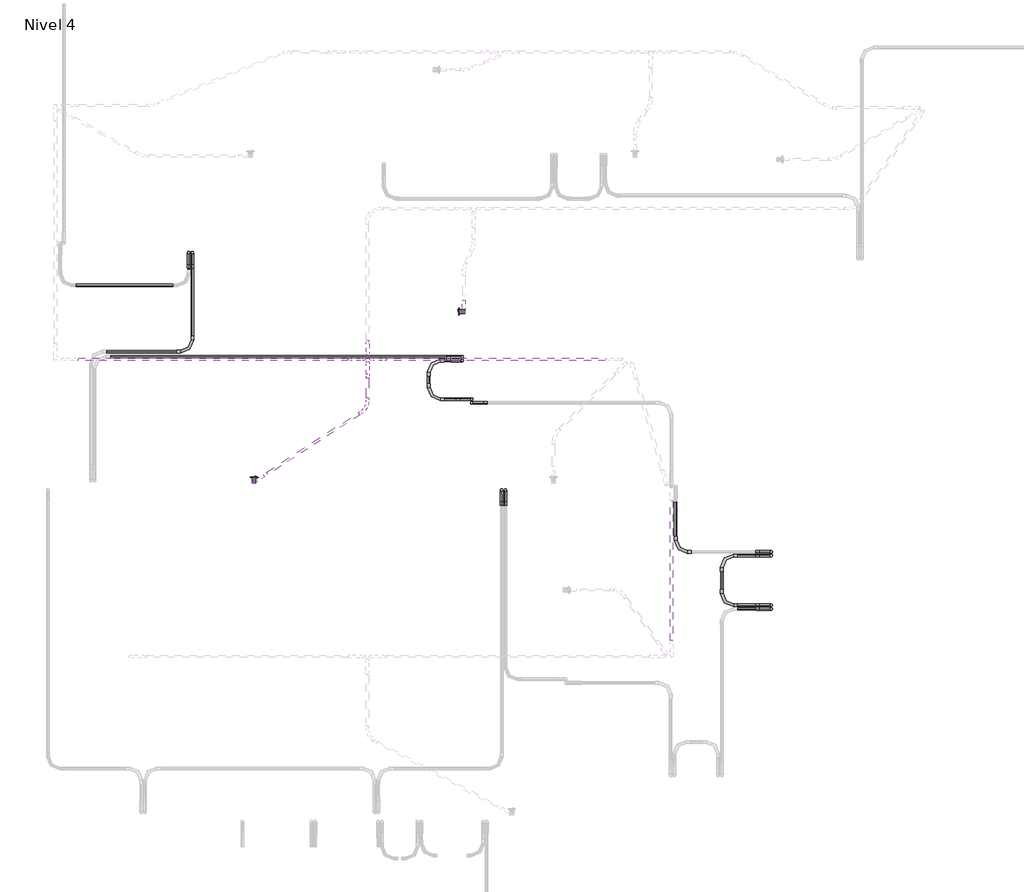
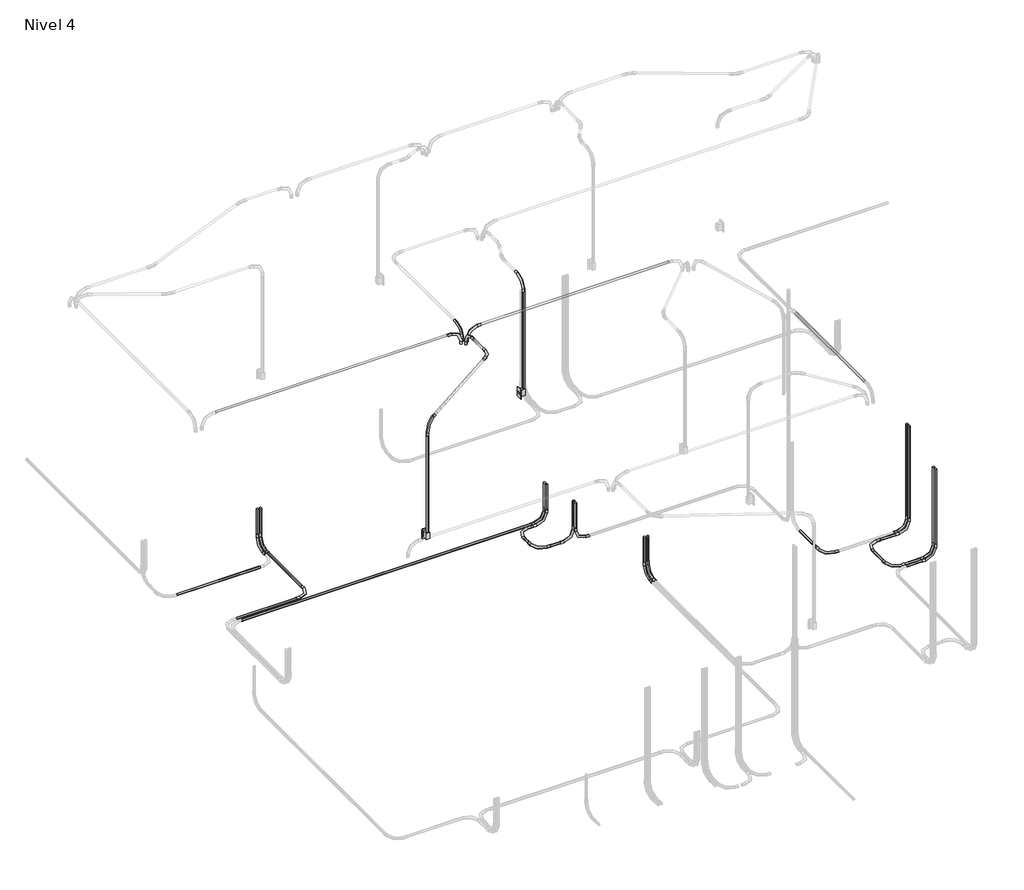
# One storey, part 7 of 9: 32 cable carrier segments, 25 cable carrier fittings, 2 switching devices.
"""IFC4 building model written with IfcOpenShell, lengths in millimetres."""

from ifc_helpers import new_model, si_unit, point, frame, frame_2d, origin, place, context, project, spatial, circle_curve, trimmed, segment, composite_curve, outline, extrude, transform, mapped, element, save
from components import m_codo_de_tubo_extremo_liso_pvc_9da73e12, m_codo_de_tubo_extremo_liso_pvc_102f0f41, m_codo_de_tubo_extremo_liso_pvc_76d9b60b, switching_device_22fed34b

model = new_model("IFC4")

# Units and contexts
model_context = context("Model", 3, world=origin())
ifc_project = project(units=[si_unit("LENGTHUNIT", "METRE", prefix="MILLI")], contexts=[model_context])

# Site, building, storey
site = spatial("IfcSite", under=ifc_project)
building = spatial("IfcBuilding", under=site)
storey = spatial("IfcBuildingStorey", under=building, Name="Nivel 4", Elevation=8100.0)

# Cable carrier fittings
placement = place(None, origin())
m_codo_de_tubo_extremo_liso_pvc_shape = m_codo_de_tubo_extremo_liso_pvc_9da73e12(model_context)
element("IfcCableCarrierFitting", 1, ObjectType="M_Codo de tubo - Extremo liso - PVC : CODO POTENCIA", at=placement, inside=storey, context=model_context, shape_type="MappedRepresentation", body=[
    mapped(m_codo_de_tubo_extremo_liso_pvc_shape, transform((693.5135129, 14563.117219, 8030.0), x_axis=(0.0, 0.0, -1.0), y_axis=(0.0, -1.0, 0.0), z_axis=(-1.0, 0.0, 0.0))),
])
element("IfcCableCarrierFitting", 2, ObjectType="M_Codo de tubo - Extremo liso - PVC : CODO POTENCIA", at=placement, inside=storey, context=model_context, shape_type="MappedRepresentation", body=[
    mapped(m_codo_de_tubo_extremo_liso_pvc_shape, transform((657.4498733, 14563.117219, 8030.0), x_axis=(0.0, 0.0, -1.0), y_axis=(0.0, -1.0, 0.0), z_axis=(-1.0, 0.0, 0.0))),
])
element("IfcCableCarrierFitting", 3, ObjectType="M_Codo de tubo - Extremo liso - PVC : CODO POTENCIA", at=placement, inside=storey, context=model_context, shape_type="MappedRepresentation", body=[
    mapped(m_codo_de_tubo_extremo_liso_pvc_shape, transform((6344.6371118, 11639.3432469, 8030.0), x_axis=(0.0, 0.0, -1.0), y_axis=(-1.0, 0.0, 0.0), z_axis=(0.0, 1.0, 0.0))),
])
element("IfcCableCarrierFitting", 4, ObjectType="M_Codo de tubo - Extremo liso - PVC : CODO POTENCIA", at=placement, inside=storey, context=model_context, shape_type="MappedRepresentation", body=[
    mapped(m_codo_de_tubo_extremo_liso_pvc_shape, transform((6344.6371118, 11603.2796073, 8030.0), x_axis=(0.0, 0.0, -1.0), y_axis=(-1.0, 0.0, 0.0), z_axis=(0.0, 1.0, 0.0))),
])
element("IfcCableCarrierFitting", 5, ObjectType="M_Codo de tubo - Extremo liso - PVC : CODO POTENCIA", at=placement, inside=storey, context=model_context, shape_type="MappedRepresentation", body=[
    mapped(m_codo_de_tubo_extremo_liso_pvc_shape, transform((6344.6371118, 11118.8284868, 8030.0), x_axis=(0.0, 0.0, -1.0), y_axis=(-1.0, 0.0, 0.0), z_axis=(0.0, 1.0, 0.0))),
])
element("IfcCableCarrierFitting", 6, ObjectType="M_Codo de tubo - Extremo liso - PVC : CODO POTENCIA", at=placement, inside=storey, context=model_context, shape_type="MappedRepresentation", body=[
    mapped(m_codo_de_tubo_extremo_liso_pvc_shape, transform((6344.6371118, 11082.7648472, 8030.0), x_axis=(0.0, 0.0, -1.0), y_axis=(-1.0, 0.0, 0.0), z_axis=(0.0, 1.0, 0.0))),
])
element("IfcCableCarrierFitting", 7, ObjectType="M_Codo de tubo - Extremo liso - PVC : CODO POTENCIA", at=placement, inside=storey, context=model_context, shape_type="MappedRepresentation", body=[
    mapped(m_codo_de_tubo_extremo_liso_pvc_shape, transform((5861.9683714, 11603.2796073, 8030.0), x_axis=(-1.0, 0.0, 0.0), y_axis=(0.0, -1.0, 0.0), z_axis=(0.0, 0.0, 1.0))),
])
element("IfcCableCarrierFitting", 8, ObjectType="M_Codo de tubo - Extremo liso - PVC : CODO POTENCIA", at=placement, inside=storey, context=model_context, shape_type="MappedRepresentation", body=[
    mapped(m_codo_de_tubo_extremo_liso_pvc_shape, transform((5861.9683714, 11118.8284868, 8030.0), x_axis=(0.0, -1.0, 0.0), y_axis=(1.0, 0.0, 0.0), z_axis=(0.0, 0.0, 1.0))),
])
element("IfcCableCarrierFitting", 9, ObjectType="M_Codo de tubo - Extremo liso - PVC : CODO POTENCIA", at=placement, inside=storey, context=model_context, shape_type="MappedRepresentation", body=[
    mapped(m_codo_de_tubo_extremo_liso_pvc_shape, transform((3750.0633148, 12244.6371118, 8030.0), x_axis=(0.0, 0.0, -1.0), y_axis=(0.0, -1.0, 0.0), z_axis=(-1.0, 0.0, 0.0))),
])
element("IfcCableCarrierFitting", 10, ObjectType="M_Codo de tubo - Extremo liso - PVC : CODO POTENCIA", at=placement, inside=storey, context=model_context, shape_type="MappedRepresentation", body=[
    mapped(m_codo_de_tubo_extremo_liso_pvc_shape, transform((3713.9996751, 12244.6371118, 8030.0), x_axis=(0.0, 0.0, -1.0), y_axis=(0.0, -1.0, 0.0), z_axis=(-1.0, 0.0, 0.0))),
])
element("IfcCableCarrierFitting", 11, ObjectType="M_Codo de tubo - Extremo liso - PVC : CODO POTENCIA", at=placement, inside=storey, context=model_context, shape_type="MappedRepresentation", body=[
    mapped(m_codo_de_tubo_extremo_liso_pvc_shape, transform((3420.363469, 13095.2791789, 8030.0), x_axis=(0.0, 0.0, -1.0), y_axis=(1.0, 0.0, 0.0), z_axis=(0.0, -1.0, 0.0))),
])
element("IfcCableCarrierFitting", 12, ObjectType="M_Codo de tubo - Extremo liso - PVC : CODO POTENCIA", at=placement, inside=storey, context=model_context, shape_type="MappedRepresentation", body=[
    mapped(m_codo_de_tubo_extremo_liso_pvc_shape, transform((5411.447338, 11639.3432469, 8030.0), x_axis=(0.0, -1.0, 0.0), y_axis=(1.0, 0.0, 0.0), z_axis=(0.0, 0.0, 1.0))),
])
element("IfcCableCarrierFitting", 13, ObjectType="M_Codo de tubo - Extremo liso - PVC : CODO POTENCIA", at=placement, inside=storey, context=model_context, shape_type="MappedRepresentation", body=[
    mapped(m_codo_de_tubo_extremo_liso_pvc_shape, transform((3329.6376926, 13509.7087096, 8030.0), x_axis=(0.0, 0.0, -1.0), y_axis=(-1.0, 0.0, 0.0), z_axis=(0.0, 1.0, 0.0))),
])
element("IfcCableCarrierFitting", 14, ObjectType="M_Codo de tubo - Extremo liso - PVC : CODO POTENCIA", at=placement, inside=storey, context=model_context, shape_type="MappedRepresentation", body=[
    mapped(m_codo_de_tubo_extremo_liso_pvc_shape, transform((3329.6376926, 13545.7723493, 8030.0), x_axis=(0.0, 0.0, -1.0), y_axis=(-1.0, 0.0, 0.0), z_axis=(0.0, 1.0, 0.0))),
])
element("IfcCableCarrierFitting", 15, ObjectType="M_Codo de tubo - Extremo liso - PVC : CODO POTENCIA", at=placement, inside=storey, context=model_context, shape_type="MappedRepresentation", body=[
    mapped(m_codo_de_tubo_extremo_liso_pvc_shape, transform((3000.0, 13509.7087096, 8030.0), x_axis=(-1.0, 0.0, 0.0), y_axis=(0.0, -1.0, 0.0), z_axis=(0.0, 0.0, 1.0))),
])
element("IfcCableCarrierFitting", 16, ObjectType="M_Codo de tubo - Extremo liso - PVC : CODO POTENCIA", at=placement, inside=storey, context=model_context, shape_type="MappedRepresentation", body=[
    mapped(m_codo_de_tubo_extremo_liso_pvc_shape, transform((3000.0, 13131.3428185, 8030.0), x_axis=(0.0, -1.0, 0.0), y_axis=(1.0, 0.0, 0.0), z_axis=(0.0, 0.0, 1.0))),
])
element("IfcCableCarrierFitting", 17, ObjectType="M_Codo de tubo - Extremo liso - PVC : CODO POTENCIA", at=placement, inside=storey, context=model_context, shape_type="MappedRepresentation", body=[
    mapped(m_codo_de_tubo_extremo_liso_pvc_shape, transform((3420.363469, 13131.3428185, 8030.0), x_axis=(0.0, 0.0, -1.0), y_axis=(-1.0, 0.0, 0.0), z_axis=(0.0, 1.0, 0.0))),
])
element("IfcCableCarrierFitting", 18, ObjectType="M_Codo de tubo - Extremo liso - PVC : CODO POTENCIA", at=placement, inside=storey, context=model_context, shape_type="MappedRepresentation", body=[
    mapped(m_codo_de_tubo_extremo_liso_pvc_shape, transform((693.5135129, 13596.0465616, 8030.0), x_axis=(1.0, 0.0, 0.0), y_axis=(0.0, 1.0, 0.0), z_axis=(0.0, 0.0, 1.0))),
])
element("IfcCableCarrierFitting", 19, ObjectType="M_Codo de tubo - Extremo liso - PVC : CODO ILUMINACION", at=placement, inside=storey, context=model_context, shape_type="MappedRepresentation", body=[
    mapped(m_codo_de_tubo_extremo_liso_pvc_shape, transform((2437.1421514, 13521.2601744, 10650.0), x_axis=(-1.0, 0.0, 0.0), y_axis=(0.0, 0.0, -1.0), z_axis=(0.0, -1.0, 0.0))),
])
element("IfcCableCarrierFitting", 20, ObjectType="M_Codo de tubo - Extremo liso - PVC : CODO ILUMINACION", at=placement, inside=storey, context=model_context, shape_type="MappedRepresentation", body=[
    mapped(m_codo_de_tubo_extremo_liso_pvc_shape, transform((3343.1394564, 13985.3219698, 10650.0), x_axis=(0.0, 0.0, 1.0), y_axis=(0.0, 1.0, 0.0), z_axis=(-1.0, 0.0, 0.0))),
])
element("IfcCableCarrierFitting", 21, ObjectType="M_Codo de tubo - Extremo liso - PVC : CODO ILUMINACION", at=placement, inside=storey, context=model_context, shape_type="MappedRepresentation", body=[
    mapped(m_codo_de_tubo_extremo_liso_pvc_shape, transform((2405.2097778, 13557.4891468, 10650.0), x_axis=(0.003624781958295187, -0.9999934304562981, 0.0), y_axis=(0.0, 0.0, -1.0000000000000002), z_axis=(0.9999934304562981, 0.003624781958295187, 0.0))),
])
element("IfcCableCarrierFitting", 22, ObjectType="M_Codo de tubo - Extremo liso - PVC : CODO ILUMINACION", at=placement, inside=storey, context=model_context, shape_type="MappedRepresentation", body=[
    mapped(m_codo_de_tubo_extremo_liso_pvc_shape, transform((1294.5944838, 12321.8611243, 10650.0), x_axis=(0.0, 0.0, 1.0), y_axis=(0.8386705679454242, 0.5446390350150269, 0.0), z_axis=(-0.5446390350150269, 0.8386705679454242, 0.0))),
])
m_codo_de_tubo_extremo_liso_pvc_2_shape = m_codo_de_tubo_extremo_liso_pvc_102f0f41(model_context)
element("IfcCableCarrierFitting", 23, ObjectType="M_Codo de tubo - Extremo liso - PVC : CODO ILUMINACION", at=placement, inside=storey, context=model_context, shape_type="MappedRepresentation", body=[
    mapped(m_codo_de_tubo_extremo_liso_pvc_2_shape, transform((2369.1118904, 13521.2601744, 10650.0), x_axis=(1.0, 0.0, 0.0), y_axis=(0.0, 0.0, 1.0), z_axis=(0.0, -1.0, 0.0))),
])
element("IfcCableCarrierFitting", 24, ObjectType="M_Codo de tubo - Extremo liso - PVC : CODO ILUMINACION", at=placement, inside=storey, context=model_context, shape_type="MappedRepresentation", body=[
    mapped(m_codo_de_tubo_extremo_liso_pvc_2_shape, transform((2405.2097778, 13489.4433397, 10650.0), x_axis=(0.003624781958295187, 0.9999934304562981, 0.0), y_axis=(0.0, 0.0, 1.0000000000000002), z_axis=(0.9999934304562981, -0.003624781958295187, 0.0))),
])
m_codo_de_tubo_extremo_liso_pvc_3_shape = m_codo_de_tubo_extremo_liso_pvc_76d9b60b(model_context)
element("IfcCableCarrierFitting", 25, ObjectType="M_Codo de tubo - Extremo liso - PVC : CODO ILUMINACION", at=placement, inside=storey, context=model_context, shape_type="MappedRepresentation", body=[
    mapped(m_codo_de_tubo_extremo_liso_pvc_3_shape, transform((2403.5880638, 13042.049976, 10650.0), x_axis=(0.8386705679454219, 0.5446390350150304, 0.0), y_axis=(-0.5446390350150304, 0.8386705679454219, 0.0), z_axis=(0.0, 0.0, 1.0))),
])

# Cable carrier segments
element("IfcCableCarrierSegment", 26, ObjectType="PVC-SEL, POTENCIA", at=placement, inside=storey, context=model_context, shape_type="SweptSolid", body=[
    extrude(outline(composite_curve([segment(trimmed(circle_curve(frame_2d((8030.0, 693.5135129)), 11.71), [point((8030.0, 681.8035129))], [point((8018.29, 693.5135129))], False, "CARTESIAN"), True, "CONTINUOUS"), segment(trimmed(circle_curve(frame_2d((8030.0, 693.5135129)), 11.71), [point((8018.29, 693.5135129))], [point((8030.0, 705.2235129))], False, "CARTESIAN"), True, "CONTINUOUS"), segment(trimmed(circle_curve(frame_2d((8030.0, 693.5135129)), 11.71), [point((8030.0, 705.2235129))], [point((8041.71, 693.5135129))], False, "CARTESIAN"), True, "CONTINUOUS"), segment(trimmed(circle_curve(frame_2d((8030.0, 693.5135129)), 11.71), [point((8041.71, 693.5135129))], [point((8030.0, 681.8035129))], False, "CARTESIAN"), True, "CONTINUOUS")], self_intersect=False)), frame((0.0, 13748.4465616, 0.0), z_axis=(0.0, 1.0, 0.0), x_axis=(0.0, 0.0, 1.0)), (0.0, 0.0, 1.0), 662.2706574),
])
element("IfcCableCarrierSegment", 27, ObjectType="PVC-SEL, POTENCIA", at=placement, inside=storey, context=model_context, shape_type="SweptSolid", body=[
    extrude(outline(composite_curve([segment(trimmed(circle_curve(frame_2d((693.5135129, 14563.117219)), 11.71), [point((705.2235129, 14563.117219))], [point((693.5135129, 14551.407219))], False, "CARTESIAN"), True, "CONTINUOUS"), segment(trimmed(circle_curve(frame_2d((693.5135129, 14563.117219)), 11.71), [point((693.5135129, 14551.407219))], [point((681.8035129, 14563.117219))], False, "CARTESIAN"), True, "CONTINUOUS"), segment(trimmed(circle_curve(frame_2d((693.5135129, 14563.117219)), 11.71), [point((681.8035129, 14563.117219))], [point((693.5135129, 14574.827219))], False, "CARTESIAN"), True, "CONTINUOUS"), segment(trimmed(circle_curve(frame_2d((693.5135129, 14563.117219)), 11.71), [point((693.5135129, 14574.827219))], [point((705.2235129, 14563.117219))], False, "CARTESIAN"), True, "CONTINUOUS")], self_intersect=False)), frame((0.0, 0.0, 8182.4), z_axis=(0.0, 0.0, 1.0), x_axis=(1.0, 0.0, 0.0)), (0.0, 0.0, 1.0), 297.3020537),
])
element("IfcCableCarrierSegment", 28, ObjectType="PVC-SEL, POTENCIA", at=placement, inside=storey, context=model_context, shape_type="SweptSolid", body=[
    extrude(outline(composite_curve([segment(trimmed(circle_curve(frame_2d((8030.0, 657.4498733)), 11.71), [point((8030.0, 645.7398733))], [point((8018.29, 657.4498733))], False, "CARTESIAN"), True, "CONTINUOUS"), segment(trimmed(circle_curve(frame_2d((8030.0, 657.4498733)), 11.71), [point((8018.29, 657.4498733))], [point((8030.0, 669.1598733))], False, "CARTESIAN"), True, "CONTINUOUS"), segment(trimmed(circle_curve(frame_2d((8030.0, 657.4498733)), 11.71), [point((8030.0, 669.1598733))], [point((8041.71, 657.4498733))], False, "CARTESIAN"), True, "CONTINUOUS"), segment(trimmed(circle_curve(frame_2d((8030.0, 657.4498733)), 11.71), [point((8041.71, 657.4498733))], [point((8030.0, 645.7398733))], False, "CARTESIAN"), True, "CONTINUOUS")], self_intersect=False)), frame((0.0, 14395.517219, 0.0), z_axis=(0.0, 1.0, 0.0), x_axis=(0.0, 0.0, 1.0)), (0.0, 0.0, 1.0), 15.2),
])
element("IfcCableCarrierSegment", 29, ObjectType="PVC-SEL, POTENCIA", at=placement, inside=storey, context=model_context, shape_type="SweptSolid", body=[
    extrude(outline(composite_curve([segment(trimmed(circle_curve(frame_2d((657.4498733, 14563.117219)), 11.71), [point((669.1598733, 14563.117219))], [point((657.4498733, 14551.407219))], False, "CARTESIAN"), True, "CONTINUOUS"), segment(trimmed(circle_curve(frame_2d((657.4498733, 14563.117219)), 11.71), [point((657.4498733, 14551.407219))], [point((645.7398733, 14563.117219))], False, "CARTESIAN"), True, "CONTINUOUS"), segment(trimmed(circle_curve(frame_2d((657.4498733, 14563.117219)), 11.71), [point((645.7398733, 14563.117219))], [point((657.4498733, 14574.827219))], False, "CARTESIAN"), True, "CONTINUOUS"), segment(trimmed(circle_curve(frame_2d((657.4498733, 14563.117219)), 11.71), [point((657.4498733, 14574.827219))], [point((669.1598733, 14563.117219))], False, "CARTESIAN"), True, "CONTINUOUS")], self_intersect=False)), frame((0.0, 0.0, 8182.4), z_axis=(0.0, 0.0, 1.0), x_axis=(1.0, 0.0, 0.0)), (0.0, 0.0, 1.0), 297.3020537),
])
element("IfcCableCarrierSegment", 30, ObjectType="PVC-SEL, POTENCIA", at=placement, inside=storey, context=model_context, shape_type="SweptSolid", body=[
    extrude(outline(composite_curve([segment(trimmed(circle_curve(frame_2d((6344.6371118, 11639.3432469)), 11.71), [point((6356.3471118, 11639.3432469))], [point((6344.6371118, 11627.6332469))], False, "CARTESIAN"), True, "CONTINUOUS"), segment(trimmed(circle_curve(frame_2d((6344.6371118, 11639.3432469)), 11.71), [point((6344.6371118, 11627.6332469))], [point((6332.9271118, 11639.3432469))], False, "CARTESIAN"), True, "CONTINUOUS"), segment(trimmed(circle_curve(frame_2d((6344.6371118, 11639.3432469)), 11.71), [point((6332.9271118, 11639.3432469))], [point((6344.6371118, 11651.0532469))], False, "CARTESIAN"), True, "CONTINUOUS"), segment(trimmed(circle_curve(frame_2d((6344.6371118, 11639.3432469)), 11.71), [point((6344.6371118, 11651.0532469))], [point((6356.3471118, 11639.3432469))], False, "CARTESIAN"), True, "CONTINUOUS")], self_intersect=False)), frame((0.0, 0.0, 8182.4), z_axis=(0.0, 0.0, 1.0), x_axis=(1.0, 0.0, 0.0)), (0.0, 0.0, 1.0), 1097.3020537),
])
element("IfcCableCarrierSegment", 31, ObjectType="PVC-SEL, POTENCIA", at=placement, inside=storey, context=model_context, shape_type="SweptSolid", body=[
    extrude(outline(composite_curve([segment(trimmed(circle_curve(frame_2d((11603.2796073, 8030.0)), 11.71), [point((11614.9896073, 8030.0))], [point((11603.2796073, 8018.29))], False, "CARTESIAN"), True, "CONTINUOUS"), segment(trimmed(circle_curve(frame_2d((11603.2796073, 8030.0)), 11.71), [point((11603.2796073, 8018.29))], [point((11591.5696073, 8030.0))], False, "CARTESIAN"), True, "CONTINUOUS"), segment(trimmed(circle_curve(frame_2d((11603.2796073, 8030.0)), 11.71), [point((11591.5696073, 8030.0))], [point((11603.2796073, 8041.71))], False, "CARTESIAN"), True, "CONTINUOUS"), segment(trimmed(circle_curve(frame_2d((11603.2796073, 8030.0)), 11.71), [point((11603.2796073, 8041.71))], [point((11614.9896073, 8030.0))], False, "CARTESIAN"), True, "CONTINUOUS")], self_intersect=False)), frame((6014.3683714, 0.0, 0.0), z_axis=(1.0, 0.0, 0.0), x_axis=(0.0, 1.0, 0.0)), (0.0, 0.0, 1.0), 177.8687404),
])
element("IfcCableCarrierSegment", 32, ObjectType="PVC-SEL, POTENCIA", at=placement, inside=storey, context=model_context, shape_type="SweptSolid", body=[
    extrude(outline(composite_curve([segment(trimmed(circle_curve(frame_2d((6344.6371118, 11603.2796073)), 11.71), [point((6356.3471118, 11603.2796073))], [point((6344.6371118, 11591.5696073))], False, "CARTESIAN"), True, "CONTINUOUS"), segment(trimmed(circle_curve(frame_2d((6344.6371118, 11603.2796073)), 11.71), [point((6344.6371118, 11591.5696073))], [point((6332.9271118, 11603.2796073))], False, "CARTESIAN"), True, "CONTINUOUS"), segment(trimmed(circle_curve(frame_2d((6344.6371118, 11603.2796073)), 11.71), [point((6332.9271118, 11603.2796073))], [point((6344.6371118, 11614.9896073))], False, "CARTESIAN"), True, "CONTINUOUS"), segment(trimmed(circle_curve(frame_2d((6344.6371118, 11603.2796073)), 11.71), [point((6344.6371118, 11614.9896073))], [point((6356.3471118, 11603.2796073))], False, "CARTESIAN"), True, "CONTINUOUS")], self_intersect=False)), frame((0.0, 0.0, 8182.4), z_axis=(0.0, 0.0, 1.0), x_axis=(1.0, 0.0, 0.0)), (0.0, 0.0, 1.0), 1097.3020537),
])
element("IfcCableCarrierSegment", 33, ObjectType="PVC-SEL, POTENCIA", at=placement, inside=storey, context=model_context, shape_type="SweptSolid", body=[
    extrude(outline(composite_curve([segment(trimmed(circle_curve(frame_2d((11118.8284868, 8030.0)), 11.71), [point((11130.5384868, 8030.0))], [point((11118.8284868, 8018.29))], False, "CARTESIAN"), True, "CONTINUOUS"), segment(trimmed(circle_curve(frame_2d((11118.8284868, 8030.0)), 11.71), [point((11118.8284868, 8018.29))], [point((11107.1184868, 8030.0))], False, "CARTESIAN"), True, "CONTINUOUS"), segment(trimmed(circle_curve(frame_2d((11118.8284868, 8030.0)), 11.71), [point((11107.1184868, 8030.0))], [point((11118.8284868, 8041.71))], False, "CARTESIAN"), True, "CONTINUOUS"), segment(trimmed(circle_curve(frame_2d((11118.8284868, 8030.0)), 11.71), [point((11118.8284868, 8041.71))], [point((11130.5384868, 8030.0))], False, "CARTESIAN"), True, "CONTINUOUS")], self_intersect=False)), frame((6014.3683714, 0.0, 0.0), z_axis=(1.0, 0.0, 0.0), x_axis=(0.0, 1.0, 0.0)), (0.0, 0.0, 1.0), 177.8687404),
])
element("IfcCableCarrierSegment", 34, ObjectType="PVC-SEL, POTENCIA", at=placement, inside=storey, context=model_context, shape_type="SweptSolid", body=[
    extrude(outline(composite_curve([segment(trimmed(circle_curve(frame_2d((6344.6371118, 11118.8284868)), 11.71), [point((6356.3471118, 11118.8284868))], [point((6344.6371118, 11107.1184868))], False, "CARTESIAN"), True, "CONTINUOUS"), segment(trimmed(circle_curve(frame_2d((6344.6371118, 11118.8284868)), 11.71), [point((6344.6371118, 11107.1184868))], [point((6332.9271118, 11118.8284868))], False, "CARTESIAN"), True, "CONTINUOUS"), segment(trimmed(circle_curve(frame_2d((6344.6371118, 11118.8284868)), 11.71), [point((6332.9271118, 11118.8284868))], [point((6344.6371118, 11130.5384868))], False, "CARTESIAN"), True, "CONTINUOUS"), segment(trimmed(circle_curve(frame_2d((6344.6371118, 11118.8284868)), 11.71), [point((6344.6371118, 11130.5384868))], [point((6356.3471118, 11118.8284868))], False, "CARTESIAN"), True, "CONTINUOUS")], self_intersect=False)), frame((0.0, 0.0, 8182.4), z_axis=(0.0, 0.0, 1.0), x_axis=(1.0, 0.0, 0.0)), (0.0, 0.0, 1.0), 897.3020537),
])
element("IfcCableCarrierSegment", 35, ObjectType="PVC-SEL, POTENCIA", at=placement, inside=storey, context=model_context, shape_type="SweptSolid", body=[
    extrude(outline(composite_curve([segment(trimmed(circle_curve(frame_2d((11082.7648472, 8030.0)), 11.71), [point((11094.4748472, 8030.0))], [point((11082.7648472, 8018.29))], False, "CARTESIAN"), True, "CONTINUOUS"), segment(trimmed(circle_curve(frame_2d((11082.7648472, 8030.0)), 11.71), [point((11082.7648472, 8018.29))], [point((11071.0548472, 8030.0))], False, "CARTESIAN"), True, "CONTINUOUS"), segment(trimmed(circle_curve(frame_2d((11082.7648472, 8030.0)), 11.71), [point((11071.0548472, 8030.0))], [point((11082.7648472, 8041.71))], False, "CARTESIAN"), True, "CONTINUOUS"), segment(trimmed(circle_curve(frame_2d((11082.7648472, 8030.0)), 11.71), [point((11082.7648472, 8041.71))], [point((11094.4748472, 8030.0))], False, "CARTESIAN"), True, "CONTINUOUS")], self_intersect=False)), frame((6014.3683714, 0.0, 0.0), z_axis=(1.0, 0.0, 0.0), x_axis=(0.0, 1.0, 0.0)), (0.0, 0.0, 1.0), 177.8687404),
])
element("IfcCableCarrierSegment", 36, ObjectType="PVC-SEL, POTENCIA", at=placement, inside=storey, context=model_context, shape_type="SweptSolid", body=[
    extrude(outline(composite_curve([segment(trimmed(circle_curve(frame_2d((6344.6371118, 11082.7648472)), 11.71), [point((6356.3471118, 11082.7648472))], [point((6344.6371118, 11071.0548472))], False, "CARTESIAN"), True, "CONTINUOUS"), segment(trimmed(circle_curve(frame_2d((6344.6371118, 11082.7648472)), 11.71), [point((6344.6371118, 11071.0548472))], [point((6332.9271118, 11082.7648472))], False, "CARTESIAN"), True, "CONTINUOUS"), segment(trimmed(circle_curve(frame_2d((6344.6371118, 11082.7648472)), 11.71), [point((6332.9271118, 11082.7648472))], [point((6344.6371118, 11094.4748472))], False, "CARTESIAN"), True, "CONTINUOUS"), segment(trimmed(circle_curve(frame_2d((6344.6371118, 11082.7648472)), 11.71), [point((6344.6371118, 11094.4748472))], [point((6356.3471118, 11082.7648472))], False, "CARTESIAN"), True, "CONTINUOUS")], self_intersect=False)), frame((0.0, 0.0, 8182.4), z_axis=(0.0, 0.0, 1.0), x_axis=(1.0, 0.0, 0.0)), (0.0, 0.0, 1.0), 897.3020537),
])
element("IfcCableCarrierSegment", 37, ObjectType="PVC-SEL, POTENCIA", at=placement, inside=storey, context=model_context, shape_type="SweptSolid", body=[
    extrude(outline(composite_curve([segment(trimmed(circle_curve(frame_2d((8030.0, 5861.9683714)), 11.71), [point((8030.0, 5850.2583714))], [point((8018.29, 5861.9683714))], False, "CARTESIAN"), True, "CONTINUOUS"), segment(trimmed(circle_curve(frame_2d((8030.0, 5861.9683714)), 11.71), [point((8018.29, 5861.9683714))], [point((8030.0, 5873.6783714))], False, "CARTESIAN"), True, "CONTINUOUS"), segment(trimmed(circle_curve(frame_2d((8030.0, 5861.9683714)), 11.71), [point((8030.0, 5873.6783714))], [point((8041.71, 5861.9683714))], False, "CARTESIAN"), True, "CONTINUOUS"), segment(trimmed(circle_curve(frame_2d((8030.0, 5861.9683714)), 11.71), [point((8041.71, 5861.9683714))], [point((8030.0, 5850.2583714))], False, "CARTESIAN"), True, "CONTINUOUS")], self_intersect=False)), frame((0.0, 11271.2284868, 0.0), z_axis=(0.0, 1.0, 0.0), x_axis=(0.0, 0.0, 1.0)), (0.0, 0.0, 1.0), 179.6511205),
])
element("IfcCableCarrierSegment", 38, ObjectType="PVC-SEL, POTENCIA", at=placement, inside=storey, context=model_context, shape_type="SweptSolid", body=[
    extrude(outline(composite_curve([segment(trimmed(circle_curve(frame_2d((3750.0633148, 12244.6371118)), 11.71), [point((3761.7733148, 12244.6371118))], [point((3750.0633148, 12232.9271118))], False, "CARTESIAN"), True, "CONTINUOUS"), segment(trimmed(circle_curve(frame_2d((3750.0633148, 12244.6371118)), 11.71), [point((3750.0633148, 12232.9271118))], [point((3738.3533148, 12244.6371118))], False, "CARTESIAN"), True, "CONTINUOUS"), segment(trimmed(circle_curve(frame_2d((3750.0633148, 12244.6371118)), 11.71), [point((3738.3533148, 12244.6371118))], [point((3750.0633148, 12256.3471118))], False, "CARTESIAN"), True, "CONTINUOUS"), segment(trimmed(circle_curve(frame_2d((3750.0633148, 12244.6371118)), 11.71), [point((3750.0633148, 12256.3471118))], [point((3761.7733148, 12244.6371118))], False, "CARTESIAN"), True, "CONTINUOUS")], self_intersect=False)), frame((0.0, 0.0, 8182.4), z_axis=(0.0, 0.0, 1.0), x_axis=(1.0, 0.0, 0.0)), (0.0, 0.0, 1.0), 297.3020537),
])
element("IfcCableCarrierSegment", 39, ObjectType="PVC-SEL, POTENCIA", at=placement, inside=storey, context=model_context, shape_type="SweptSolid", body=[
    extrude(outline(composite_curve([segment(trimmed(circle_curve(frame_2d((3713.9996751, 12244.6371118)), 11.71), [point((3725.7096751, 12244.6371118))], [point((3713.9996751, 12232.9271118))], False, "CARTESIAN"), True, "CONTINUOUS"), segment(trimmed(circle_curve(frame_2d((3713.9996751, 12244.6371118)), 11.71), [point((3713.9996751, 12232.9271118))], [point((3702.2896751, 12244.6371118))], False, "CARTESIAN"), True, "CONTINUOUS"), segment(trimmed(circle_curve(frame_2d((3713.9996751, 12244.6371118)), 11.71), [point((3702.2896751, 12244.6371118))], [point((3713.9996751, 12256.3471118))], False, "CARTESIAN"), True, "CONTINUOUS"), segment(trimmed(circle_curve(frame_2d((3713.9996751, 12244.6371118)), 11.71), [point((3713.9996751, 12256.3471118))], [point((3725.7096751, 12244.6371118))], False, "CARTESIAN"), True, "CONTINUOUS")], self_intersect=False)), frame((0.0, 0.0, 8182.4), z_axis=(0.0, 0.0, 1.0), x_axis=(1.0, 0.0, 0.0)), (0.0, 0.0, 1.0), 297.3020537),
])
element("IfcCableCarrierSegment", 40, ObjectType="PVC-SEL, POTENCIA", at=placement, inside=storey, context=model_context, shape_type="SweptSolid", body=[
    extrude(outline(composite_curve([segment(trimmed(circle_curve(frame_2d((3420.363469, 13095.2791789)), 11.71), [point((3432.073469, 13095.2791789))], [point((3420.363469, 13083.5691789))], False, "CARTESIAN"), True, "CONTINUOUS"), segment(trimmed(circle_curve(frame_2d((3420.363469, 13095.2791789)), 11.71), [point((3420.363469, 13083.5691789))], [point((3408.653469, 13095.2791789))], False, "CARTESIAN"), True, "CONTINUOUS"), segment(trimmed(circle_curve(frame_2d((3420.363469, 13095.2791789)), 11.71), [point((3408.653469, 13095.2791789))], [point((3420.363469, 13106.9891789))], False, "CARTESIAN"), True, "CONTINUOUS"), segment(trimmed(circle_curve(frame_2d((3420.363469, 13095.2791789)), 11.71), [point((3420.363469, 13106.9891789))], [point((3432.073469, 13095.2791789))], False, "CARTESIAN"), True, "CONTINUOUS")], self_intersect=False)), frame((0.0, 0.0, 8182.4), z_axis=(0.0, 0.0, 1.0), x_axis=(1.0, 0.0, 0.0)), (0.0, 0.0, 1.0), 297.3020537),
])
element("IfcCableCarrierSegment", 41, ObjectType="PVC-SEL, POTENCIA", at=placement, inside=storey, context=model_context, shape_type="SweptSolid", body=[
    extrude(outline(composite_curve([segment(trimmed(circle_curve(frame_2d((8030.0, 5411.447338)), 11.71), [point((8030.0, 5423.157338))], [point((8041.71, 5411.447338))], False, "CARTESIAN"), True, "CONTINUOUS"), segment(trimmed(circle_curve(frame_2d((8030.0, 5411.447338)), 11.71), [point((8041.71, 5411.447338))], [point((8030.0, 5399.737338))], False, "CARTESIAN"), True, "CONTINUOUS"), segment(trimmed(circle_curve(frame_2d((8030.0, 5411.447338)), 11.71), [point((8030.0, 5399.737338))], [point((8018.29, 5411.447338))], False, "CARTESIAN"), True, "CONTINUOUS"), segment(trimmed(circle_curve(frame_2d((8030.0, 5411.447338)), 11.71), [point((8018.29, 5411.447338))], [point((8030.0, 5423.157338))], False, "CARTESIAN"), True, "CONTINUOUS")], self_intersect=False)), frame((0.0, 11791.7432469, 0.0), z_axis=(0.0, 1.0, 0.0), x_axis=(0.0, 0.0, 1.0)), (0.0, 0.0, 1.0), 335.2),
])
element("IfcCableCarrierSegment", 42, ObjectType="PVC-SEL, POTENCIA", at=placement, inside=storey, context=model_context, shape_type="SweptSolid", body=[
    extrude(outline(composite_curve([segment(trimmed(circle_curve(frame_2d((13131.3428185, 8030.0)), 11.71), [point((13119.6328185, 8030.0))], [point((13131.3428185, 8041.71))], False, "CARTESIAN"), True, "CONTINUOUS"), segment(trimmed(circle_curve(frame_2d((13131.3428185, 8030.0)), 11.71), [point((13131.3428185, 8041.71))], [point((13143.0528185, 8030.0))], False, "CARTESIAN"), True, "CONTINUOUS"), segment(trimmed(circle_curve(frame_2d((13131.3428185, 8030.0)), 11.71), [point((13143.0528185, 8030.0))], [point((13131.3428185, 8018.29))], False, "CARTESIAN"), True, "CONTINUOUS"), segment(trimmed(circle_curve(frame_2d((13131.3428185, 8030.0)), 11.71), [point((13131.3428185, 8018.29))], [point((13119.6328185, 8030.0))], False, "CARTESIAN"), True, "CONTINUOUS")], self_intersect=False)), frame((3152.4, 0.0, 0.0), z_axis=(1.0, 0.0, 0.0), x_axis=(0.0, 1.0, 0.0)), (0.0, 0.0, 1.0), 115.563469),
])
element("IfcCableCarrierSegment", 43, ObjectType="PVC-SEL, POTENCIA", at=placement, inside=storey, context=model_context, shape_type="SweptSolid", body=[
    extrude(outline(composite_curve([segment(trimmed(circle_curve(frame_2d((3420.363469, 13131.3428185)), 11.71), [point((3432.073469, 13131.3428185))], [point((3420.363469, 13119.6328185))], False, "CARTESIAN"), True, "CONTINUOUS"), segment(trimmed(circle_curve(frame_2d((3420.363469, 13131.3428185)), 11.71), [point((3420.363469, 13119.6328185))], [point((3408.653469, 13131.3428185))], False, "CARTESIAN"), True, "CONTINUOUS"), segment(trimmed(circle_curve(frame_2d((3420.363469, 13131.3428185)), 11.71), [point((3408.653469, 13131.3428185))], [point((3420.363469, 13143.0528185))], False, "CARTESIAN"), True, "CONTINUOUS"), segment(trimmed(circle_curve(frame_2d((3420.363469, 13131.3428185)), 11.71), [point((3420.363469, 13143.0528185))], [point((3432.073469, 13131.3428185))], False, "CARTESIAN"), True, "CONTINUOUS")], self_intersect=False)), frame((0.0, 0.0, 8182.4), z_axis=(0.0, 0.0, 1.0), x_axis=(1.0, 0.0, 0.0)), (0.0, 0.0, 1.0), 297.3020537),
])
element("IfcCableCarrierSegment", 44, ObjectType="PVC-SEL, POTENCIA", at=placement, inside=storey, context=model_context, shape_type="SweptSolid", body=[
    extrude(outline(composite_curve([segment(trimmed(circle_curve(frame_2d((13509.7087096, 8030.0)), 11.71), [point((13521.4187096, 8030.0))], [point((13509.7087096, 8018.29))], False, "CARTESIAN"), True, "CONTINUOUS"), segment(trimmed(circle_curve(frame_2d((13509.7087096, 8030.0)), 11.71), [point((13509.7087096, 8018.29))], [point((13497.9987096, 8030.0))], False, "CARTESIAN"), True, "CONTINUOUS"), segment(trimmed(circle_curve(frame_2d((13509.7087096, 8030.0)), 11.71), [point((13497.9987096, 8030.0))], [point((13509.7087096, 8041.71))], False, "CARTESIAN"), True, "CONTINUOUS"), segment(trimmed(circle_curve(frame_2d((13509.7087096, 8030.0)), 11.71), [point((13509.7087096, 8041.71))], [point((13521.4187096, 8030.0))], False, "CARTESIAN"), True, "CONTINUOUS")], self_intersect=False)), frame((3152.4, 0.0, 0.0), z_axis=(1.0, 0.0, 0.0), x_axis=(0.0, 1.0, 0.0)), (0.0, 0.0, 1.0), 24.8376926),
])
element("IfcCableCarrierSegment", 45, ObjectType="PVC-SEL, POTENCIA", at=placement, inside=storey, context=model_context, shape_type="SweptSolid", body=[
    extrude(outline(composite_curve([segment(trimmed(circle_curve(frame_2d((3329.6376926, 13509.7087096)), 11.71), [point((3341.3476926, 13509.7087096))], [point((3329.6376926, 13497.9987096))], False, "CARTESIAN"), True, "CONTINUOUS"), segment(trimmed(circle_curve(frame_2d((3329.6376926, 13509.7087096)), 11.71), [point((3329.6376926, 13497.9987096))], [point((3317.9276926, 13509.7087096))], False, "CARTESIAN"), True, "CONTINUOUS"), segment(trimmed(circle_curve(frame_2d((3329.6376926, 13509.7087096)), 11.71), [point((3317.9276926, 13509.7087096))], [point((3329.6376926, 13521.4187096))], False, "CARTESIAN"), True, "CONTINUOUS"), segment(trimmed(circle_curve(frame_2d((3329.6376926, 13509.7087096)), 11.71), [point((3329.6376926, 13521.4187096))], [point((3341.3476926, 13509.7087096))], False, "CARTESIAN"), True, "CONTINUOUS")], self_intersect=False)), frame((0.0, 0.0, 8182.4), z_axis=(0.0, 0.0, 1.0), x_axis=(1.0, 0.0, 0.0)), (0.0, 0.0, 1.0), 297.3020537),
])
element("IfcCableCarrierSegment", 46, ObjectType="PVC-SEL, POTENCIA", at=placement, inside=storey, context=model_context, shape_type="SweptSolid", body=[
    extrude(outline(composite_curve([segment(trimmed(circle_curve(frame_2d((13545.7723493, 8030.0)), 11.71), [point((13557.4823493, 8030.0))], [point((13545.7723493, 8018.29))], False, "CARTESIAN"), True, "CONTINUOUS"), segment(trimmed(circle_curve(frame_2d((13545.7723493, 8030.0)), 11.71), [point((13545.7723493, 8018.29))], [point((13534.0623493, 8030.0))], False, "CARTESIAN"), True, "CONTINUOUS"), segment(trimmed(circle_curve(frame_2d((13545.7723493, 8030.0)), 11.71), [point((13534.0623493, 8030.0))], [point((13545.7723493, 8041.71))], False, "CARTESIAN"), True, "CONTINUOUS"), segment(trimmed(circle_curve(frame_2d((13545.7723493, 8030.0)), 11.71), [point((13545.7723493, 8041.71))], [point((13557.4823493, 8030.0))], False, "CARTESIAN"), True, "CONTINUOUS")], self_intersect=False)), frame((-109.6312302, 0.0, 0.0), z_axis=(1.0, 0.0, 0.0), x_axis=(0.0, 1.0, 0.0)), (0.0, 0.0, 1.0), 3286.8689227),
])
element("IfcCableCarrierSegment", 47, ObjectType="PVC-SEL, POTENCIA", at=placement, inside=storey, context=model_context, shape_type="SweptSolid", body=[
    extrude(outline(composite_curve([segment(trimmed(circle_curve(frame_2d((3329.6376926, 13545.7723493)), 11.71), [point((3341.3476926, 13545.7723493))], [point((3329.6376926, 13534.0623493))], False, "CARTESIAN"), True, "CONTINUOUS"), segment(trimmed(circle_curve(frame_2d((3329.6376926, 13545.7723493)), 11.71), [point((3329.6376926, 13534.0623493))], [point((3317.9276926, 13545.7723493))], False, "CARTESIAN"), True, "CONTINUOUS"), segment(trimmed(circle_curve(frame_2d((3329.6376926, 13545.7723493)), 11.71), [point((3317.9276926, 13545.7723493))], [point((3329.6376926, 13557.4823493))], False, "CARTESIAN"), True, "CONTINUOUS"), segment(trimmed(circle_curve(frame_2d((3329.6376926, 13545.7723493)), 11.71), [point((3329.6376926, 13557.4823493))], [point((3341.3476926, 13545.7723493))], False, "CARTESIAN"), True, "CONTINUOUS")], self_intersect=False)), frame((0.0, 0.0, 8182.4), z_axis=(0.0, 0.0, 1.0), x_axis=(1.0, 0.0, 0.0)), (0.0, 0.0, 1.0), 297.3020537),
])
element("IfcCableCarrierSegment", 48, ObjectType="PVC-SEL, POTENCIA", at=placement, inside=storey, context=model_context, shape_type="SweptSolid", body=[
    extrude(outline(composite_curve([segment(trimmed(circle_curve(frame_2d((8030.0, 3000.0)), 11.71), [point((8030.0, 2988.29))], [point((8018.29, 3000.0))], False, "CARTESIAN"), True, "CONTINUOUS"), segment(trimmed(circle_curve(frame_2d((8030.0, 3000.0)), 11.71), [point((8018.29, 3000.0))], [point((8030.0, 3011.71))], False, "CARTESIAN"), True, "CONTINUOUS"), segment(trimmed(circle_curve(frame_2d((8030.0, 3000.0)), 11.71), [point((8030.0, 3011.71))], [point((8041.71, 3000.0))], False, "CARTESIAN"), True, "CONTINUOUS"), segment(trimmed(circle_curve(frame_2d((8030.0, 3000.0)), 11.71), [point((8041.71, 3000.0))], [point((8030.0, 2988.29))], False, "CARTESIAN"), True, "CONTINUOUS")], self_intersect=False)), frame((0.0, 13283.7428185, 0.0), z_axis=(0.0, 1.0, 0.0), x_axis=(0.0, 0.0, 1.0)), (0.0, 0.0, 1.0), 73.5658911),
])
element("IfcCableCarrierSegment", 49, ObjectType="PVC-SEL, POTENCIA", at=placement, inside=storey, context=model_context, shape_type="SweptSolid", body=[
    extrude(outline(composite_curve([segment(trimmed(circle_curve(frame_2d((13596.0465616, 8030.0)), 11.71), [point((13607.7565616, 8030.0))], [point((13596.0465616, 8018.29))], False, "CARTESIAN"), True, "CONTINUOUS"), segment(trimmed(circle_curve(frame_2d((13596.0465616, 8030.0)), 11.71), [point((13596.0465616, 8018.29))], [point((13584.3365616, 8030.0))], False, "CARTESIAN"), True, "CONTINUOUS"), segment(trimmed(circle_curve(frame_2d((13596.0465616, 8030.0)), 11.71), [point((13584.3365616, 8030.0))], [point((13596.0465616, 8041.71))], False, "CARTESIAN"), True, "CONTINUOUS"), segment(trimmed(circle_curve(frame_2d((13596.0465616, 8030.0)), 11.71), [point((13596.0465616, 8041.71))], [point((13607.7565616, 8030.0))], False, "CARTESIAN"), True, "CONTINUOUS")], self_intersect=False)), frame((-145.6948698, 0.0, 0.0), z_axis=(1.0, 0.0, 0.0), x_axis=(0.0, 1.0, 0.0)), (0.0, 0.0, 1.0), 686.8083827),
])
element("IfcCableCarrierSegment", 50, ObjectType="PVC-SEL, POTENCIA", at=placement, inside=storey, context=model_context, shape_type="SweptSolid", body=[
    extrude(outline(composite_curve([segment(trimmed(circle_curve(frame_2d((14243.117219, 8030.0)), 11.71), [point((14254.827219, 8030.0))], [point((14243.117219, 8018.29))], False, "CARTESIAN"), True, "CONTINUOUS"), segment(trimmed(circle_curve(frame_2d((14243.117219, 8030.0)), 11.71), [point((14243.117219, 8018.29))], [point((14231.407219, 8030.0))], False, "CARTESIAN"), True, "CONTINUOUS"), segment(trimmed(circle_curve(frame_2d((14243.117219, 8030.0)), 11.71), [point((14231.407219, 8030.0))], [point((14243.117219, 8041.71))], False, "CARTESIAN"), True, "CONTINUOUS"), segment(trimmed(circle_curve(frame_2d((14243.117219, 8030.0)), 11.71), [point((14243.117219, 8041.71))], [point((14254.827219, 8030.0))], False, "CARTESIAN"), True, "CONTINUOUS")], self_intersect=False)), frame((-445.7296744, 0.0, 0.0), z_axis=(1.0, 0.0, 0.0), x_axis=(0.0, 1.0, 0.0)), (0.0, 0.0, 1.0), 950.7795477),
])
element("IfcCableCarrierSegment", 51, ObjectType="PVC-SEL ILUMINACION", at=placement, inside=storey, context=model_context, shape_type="SweptSolid", body=[
    extrude(outline(composite_curve([segment(trimmed(circle_curve(frame_2d((13521.2601744, 10650.0)), 11.71), [point((13532.9701744, 10650.0))], [point((13521.2601744, 10638.29))], False, "CARTESIAN"), True, "CONTINUOUS"), segment(trimmed(circle_curve(frame_2d((13521.2601744, 10650.0)), 11.71), [point((13521.2601744, 10638.29))], [point((13509.5501744, 10650.0))], False, "CARTESIAN"), True, "CONTINUOUS"), segment(trimmed(circle_curve(frame_2d((13521.2601744, 10650.0)), 11.71), [point((13509.5501744, 10650.0))], [point((13521.2601744, 10661.71))], False, "CARTESIAN"), True, "CONTINUOUS"), segment(trimmed(circle_curve(frame_2d((13521.2601744, 10650.0)), 11.71), [point((13521.2601744, 10661.71))], [point((13532.9701744, 10650.0))], False, "CARTESIAN"), True, "CONTINUOUS")], self_intersect=False)), frame((-422.3554902, 0.0, 0.0), z_axis=(1.0, 0.0, 0.0), x_axis=(0.0, 1.0, 0.0)), (0.0, 0.0, 1.0), 2639.0673806),
])
element("IfcCableCarrierSegment", 52, ObjectType="PVC-SEL ILUMINACION", at=placement, inside=storey, context=model_context, shape_type="SweptSolid", body=[
    extrude(outline(composite_curve([segment(trimmed(circle_curve(frame_2d((13521.2601744, 10650.0)), 11.71), [point((13532.9701744, 10650.0))], [point((13521.2601744, 10638.29))], False, "CARTESIAN"), True, "CONTINUOUS"), segment(trimmed(circle_curve(frame_2d((13521.2601744, 10650.0)), 11.71), [point((13521.2601744, 10638.29))], [point((13509.5501744, 10650.0))], False, "CARTESIAN"), True, "CONTINUOUS"), segment(trimmed(circle_curve(frame_2d((13521.2601744, 10650.0)), 11.71), [point((13509.5501744, 10650.0))], [point((13521.2601744, 10661.71))], False, "CARTESIAN"), True, "CONTINUOUS"), segment(trimmed(circle_curve(frame_2d((13521.2601744, 10650.0)), 11.71), [point((13521.2601744, 10661.71))], [point((13532.9701744, 10650.0))], False, "CARTESIAN"), True, "CONTINUOUS")], self_intersect=False)), frame((2589.5421514, 0.0, 0.0), z_axis=(1.0, 0.0, 0.0), x_axis=(0.0, 1.0, 0.0)), (0.0, 0.0, 1.0), 2137.8985062),
])
element("IfcCableCarrierSegment", 53, ObjectType="PVC-SEL ILUMINACION", at=placement, inside=storey, context=model_context, shape_type="SweptSolid", body=[
    extrude(outline(composite_curve([segment(trimmed(circle_curve(frame_2d((3343.1394564, 13985.3219698)), 11.71), [point((3331.4294564, 13985.3219698))], [point((3343.1394564, 13997.0319698))], False, "CARTESIAN"), True, "CONTINUOUS"), segment(trimmed(circle_curve(frame_2d((3343.1394564, 13985.3219698)), 11.71), [point((3343.1394564, 13997.0319698))], [point((3354.8494564, 13985.3219698))], False, "CARTESIAN"), True, "CONTINUOUS"), segment(trimmed(circle_curve(frame_2d((3343.1394564, 13985.3219698)), 11.71), [point((3354.8494564, 13985.3219698))], [point((3343.1394564, 13973.6119698))], False, "CARTESIAN"), True, "CONTINUOUS"), segment(trimmed(circle_curve(frame_2d((3343.1394564, 13985.3219698)), 11.71), [point((3343.1394564, 13973.6119698))], [point((3331.4294564, 13985.3219698))], False, "CARTESIAN"), True, "CONTINUOUS")], self_intersect=False)), frame((0.0, 0.0, 9340.2227463), z_axis=(0.0, 0.0, 1.0), x_axis=(1.0, 0.0, 0.0)), (0.0, 0.0, 1.0), 1157.3772537),
])
element("IfcCableCarrierSegment", 54, ObjectType="PVC-SEL ILUMINACION", at=placement, inside=storey, context=model_context, shape_type="SweptSolid", body=[
    extrude(outline(composite_curve([segment(trimmed(circle_curve(frame_2d((10650.0, 5372.6243482)), 11.71), [point((10650.0, 5384.3343482))], [point((10661.71, 5372.6243482))], False, "CARTESIAN"), True, "CONTINUOUS"), segment(trimmed(circle_curve(frame_2d((10650.0, 5372.6243482)), 11.71), [point((10661.71, 5372.6243482))], [point((10650.0, 5360.9143482))], False, "CARTESIAN"), True, "CONTINUOUS"), segment(trimmed(circle_curve(frame_2d((10650.0, 5372.6243482)), 11.71), [point((10650.0, 5360.9143482))], [point((10638.29, 5372.6243482))], False, "CARTESIAN"), True, "CONTINUOUS"), segment(trimmed(circle_curve(frame_2d((10650.0, 5372.6243482)), 11.71), [point((10638.29, 5372.6243482))], [point((10650.0, 5384.3343482))], False, "CARTESIAN"), True, "CONTINUOUS")], self_intersect=False)), frame((0.0, 10775.9653349, 0.0), z_axis=(0.0, 1.0, 0.0), x_axis=(0.0, 0.0, 1.0)), (0.0, 0.0, 1.0), 1367.6),
])
element("IfcCableCarrierSegment", 55, ObjectType="PVC-SEL ILUMINACION", at=placement, inside=storey, context=model_context, shape_type="SweptSolid", body=[
    extrude(outline(composite_curve([segment(trimmed(circle_curve(frame_2d((0.0, 11.71)), 11.71), [point((11.71, 11.71))], [point((0.0, 0.0))], False, "CARTESIAN"), True, "CONTINUOUS"), segment(trimmed(circle_curve(frame_2d((0.0, 11.71)), 11.71), [point((0.0, 0.0))], [point((-11.71, 11.71))], False, "CARTESIAN"), True, "CONTINUOUS"), segment(trimmed(circle_curve(frame_2d((0.0, 11.71)), 11.71), [point((-11.71, 11.71))], [point((0.0, 23.42))], False, "CARTESIAN"), True, "CONTINUOUS"), segment(trimmed(circle_curve(frame_2d((0.0, 11.71)), 11.71), [point((0.0, 23.42))], [point((11.71, 11.71))], False, "CARTESIAN"), True, "CONTINUOUS")], self_intersect=False)), frame((1422.4078784, 12404.8641133, 10661.71), z_axis=(0.8386705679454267, 0.544639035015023, 0.0), x_axis=(0.544639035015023, -0.8386705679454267, 0.0)), (0.0, 0.0, 1.0), 1070.0313636),
])
element("IfcCableCarrierSegment", 56, ObjectType="PVC-SEL ILUMINACION", at=placement, inside=storey, context=model_context, shape_type="SweptSolid", body=[
    extrude(outline(composite_curve([segment(trimmed(circle_curve(frame_2d((1294.5944838, 12321.8611243)), 11.71), [point((1282.8844838, 12321.8611243))], [point((1294.5944838, 12333.5711243))], False, "CARTESIAN"), True, "CONTINUOUS"), segment(trimmed(circle_curve(frame_2d((1294.5944838, 12321.8611243)), 11.71), [point((1294.5944838, 12333.5711243))], [point((1306.3044838, 12321.8611243))], False, "CARTESIAN"), True, "CONTINUOUS"), segment(trimmed(circle_curve(frame_2d((1294.5944838, 12321.8611243)), 11.71), [point((1306.3044838, 12321.8611243))], [point((1294.5944838, 12310.1511243))], False, "CARTESIAN"), True, "CONTINUOUS"), segment(trimmed(circle_curve(frame_2d((1294.5944838, 12321.8611243)), 11.71), [point((1294.5944838, 12310.1511243))], [point((1282.8844838, 12321.8611243))], False, "CARTESIAN"), True, "CONTINUOUS")], self_intersect=False)), frame((0.0, 0.0, 9340.2227463), z_axis=(0.0, 0.0, 1.0), x_axis=(1.0, 0.0, 0.0)), (0.0, 0.0, 1.0), 1157.3772537),
])
element("IfcCableCarrierSegment", 57, ObjectType="PVC-SEL ILUMINACION", at=placement, inside=storey, context=model_context, shape_type="SweptSolid", body=[
    extrude(outline(composite_curve([segment(trimmed(circle_curve(frame_2d((0.0, 11.71)), 11.71), [point((11.71, 11.71))], [point((0.0, 0.0))], False, "CARTESIAN"), True, "CONTINUOUS"), segment(trimmed(circle_curve(frame_2d((0.0, 11.71)), 11.71), [point((0.0, 0.0))], [point((-11.71, 11.71))], False, "CARTESIAN"), True, "CONTINUOUS"), segment(trimmed(circle_curve(frame_2d((0.0, 11.71)), 11.71), [point((-11.71, 11.71))], [point((0.0, 23.42))], False, "CARTESIAN"), True, "CONTINUOUS"), segment(trimmed(circle_curve(frame_2d((0.0, 11.71)), 11.71), [point((0.0, 23.42))], [point((11.71, 11.71))], False, "CARTESIAN"), True, "CONTINUOUS")], self_intersect=False)), frame((2403.95015, 13141.9411928, 10661.71), z_axis=(0.003624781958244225, 0.9999934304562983, 0.0), x_axis=(0.9999934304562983, -0.003624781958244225, 0.0)), (0.0, 0.0, 1.0), 195.1044298),
])

# Switching devices
switching_device_shape = switching_device_22fed34b(model_context)
element("IfcSwitchingDevice", 58, ObjectType="Interruptor : Tridireccional", at=placement, inside=storey, context=model_context, shape_type="MappedRepresentation", body=[
    mapped(switching_device_shape, transform((1294.5446382, 12365.0, 9300.0), x_axis=(-1.0, 0.0, 0.0), y_axis=(0.0, 0.0, 1.0), z_axis=(0.0, 1.0, 0.0))),
])
element("IfcSwitchingDevice", 59, ObjectType="Interruptor : Tridireccional", at=placement, inside=storey, context=model_context, shape_type="MappedRepresentation", body=[
    mapped(switching_device_shape, transform((3300.0005808, 13985.2721241, 9300.0), x_axis=(0.0, -1.0, 0.0), y_axis=(0.0, 0.0, 1.0), z_axis=(-1.0, 0.0, 0.0))),
])

save(model, "model.ifc")
